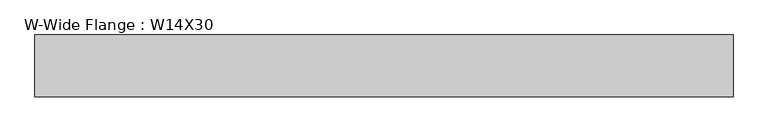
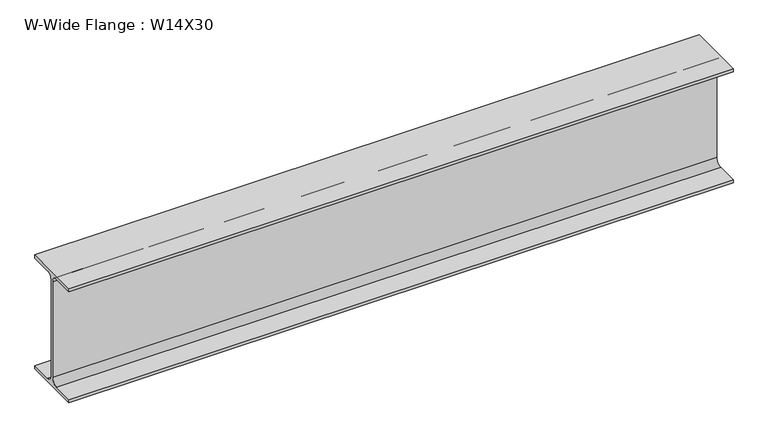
"""IFC4 building model written with IfcOpenShell, lengths in millimetres: beam geometry, W-Wide Flange : W14X30."""

from ifc_helpers import new_model, si_unit, point, frame, frame_2d, origin, place, context, project, spatial, polyline, circle_curve, trimmed, segment, composite_curve, outline, extrude, source, transform, mapped, element, save


def w_wide_flange_w14x30_b4bd2e2d(model_context):
    return source(origin(), model_context, "Body", "SweptSolid", [
        extrude(outline(composite_curve([segment(polyline([(85.471, -165.481), (85.471, -175.26), (-85.471, -175.26), (-85.471, -165.481), (-22.225, -165.481)]), True, "CONTINUOUS"), segment(trimmed(circle_curve(frame_2d((-22.225, -146.685)), 18.796), [point((-22.225, -165.481))], [point((-3.429, -146.685))], True, "CARTESIAN"), True, "CONTINUOUS"), segment(polyline([(-3.429, -146.685), (-3.429, 146.685)]), True, "CONTINUOUS"), segment(trimmed(circle_curve(frame_2d((-22.225, 146.685)), 18.796), [point((-3.429, 146.685))], [point((-22.225, 165.481))], True, "CARTESIAN"), True, "CONTINUOUS"), segment(polyline([(-22.225, 165.481), (-85.471, 165.481), (-85.471, 175.26), (85.471, 175.26), (85.471, 165.481), (22.225, 165.481)]), True, "CONTINUOUS"), segment(trimmed(circle_curve(frame_2d((22.225, 146.685)), 18.796), [point((22.225, 165.481))], [point((3.429, 146.685))], True, "CARTESIAN"), True, "CONTINUOUS"), segment(polyline([(3.429, 146.685), (3.429, -146.685)]), True, "CONTINUOUS"), segment(trimmed(circle_curve(frame_2d((22.225, -146.685)), 18.796), [point((3.429, -146.685))], [point((22.225, -165.481))], True, "CARTESIAN"), True, "CONTINUOUS"), segment(polyline([(22.225, -165.481), (85.471, -165.481)]), True, "CONTINUOUS")], self_intersect=False)), frame((-1067.6147122, 0.0, 0.0), z_axis=(1.0, 0.0, 0.0), x_axis=(0.0, 1.0, 0.0)), (0.0, 0.0, 1.0), 1929.763636),
    ])


if __name__ == "__main__":
    model = new_model("IFC4")
    model_context = context("Model", 3, world=origin())
    ifc_project = project(units=[si_unit("LENGTHUNIT", "METRE", prefix="MILLI")], contexts=[model_context])
    site = spatial("IfcSite", under=ifc_project)
    building = spatial("IfcBuilding", under=site)
    placement = place(None, origin())
    w_wide_flange_w14x30_shape = w_wide_flange_w14x30_b4bd2e2d(model_context)
    element("IfcBeam", 1, ObjectType="W-Wide Flange : W14X30", at=placement, inside=building, context=model_context, shape_type="MappedRepresentation", body=[
        mapped(w_wide_flange_w14x30_shape, transform((0.0, 0.0, 0.0), x_axis=(1.0, 0.0, 0.0), y_axis=(0.0, 1.0, 0.0), z_axis=(0.0, 0.0, 1.0))),
    ])
    save(model, "model.ifc")
